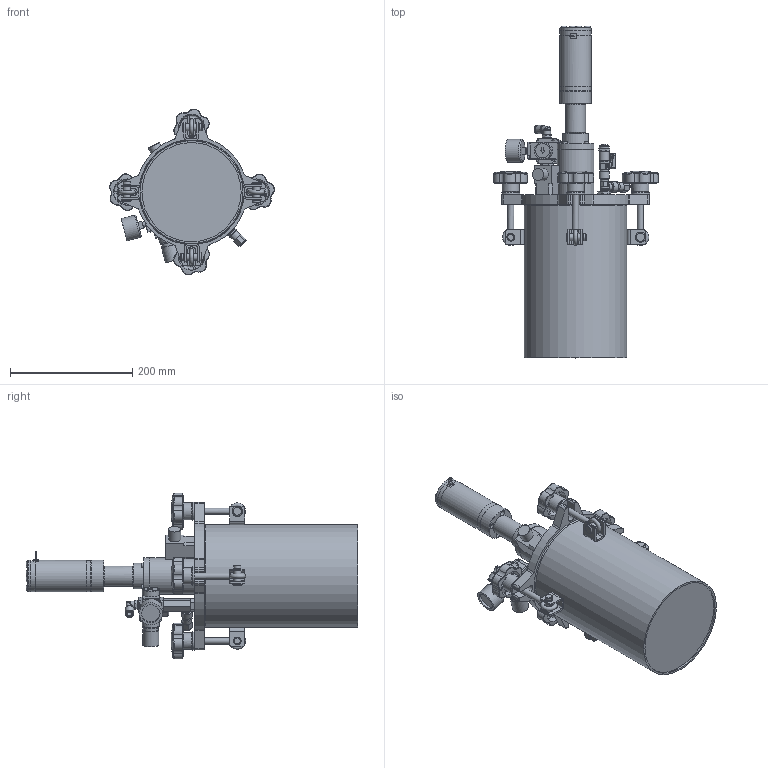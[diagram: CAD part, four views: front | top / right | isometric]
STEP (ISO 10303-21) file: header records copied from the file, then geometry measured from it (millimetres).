
FILE_DESCRIPTION (( 'STEP AP214' ), '1' );
FILE_NAME ('PT5LLS-STIR.STEP', '2024-10-11T14:34:44', ( '' ), ( '' ), 'SwSTEP 2.0', 'SolidWorks 2024', '' );
FILE_SCHEMA (( 'AUTOMOTIVE_DESIGN' ));
Length unit declared in the file: millimetre
Products named in the file (1): PT5LLS-STIR
Bounding box: 269.73 x 543.25 x 271.12 mm (x, y, z)
Volume: 2072873.1 mm3; surface area: 698149.6 mm2
Topology: 76 solids, 88 shells, 2279 faces, 5410 edges, 3439 vertices
Faces by surface type: plane 1155, cylinder 564, bspline 308, cone 213, torus 26, sphere 13
Full cylindrical faces by diameter (mm): 1.7 x2, 1.9 x1, 2 x3, 2.459 x3, 2.5 x4, 3 x5, 3.3 x8, 4 x12, 4.134 x10, 4.2 x4, 4.5 x1, 5 x16, 5.5 x7, 5.6 x4, 6 x4, 6.15 x1, 7 x6, 7.4 x1, 7.5 x1, 8 x5, 8.15 x1, 8.2 x1, 8.3 x1, 8.376 x5, 8.5 x4, 8.566 x2, 9 x8, 9.4 x1, 9.5 x4, 10 x8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
Entity records: 92762 total; most frequent: CARTESIAN_POINT 43817, ORIENTED_EDGE 9606, DIRECTION 9178, EDGE_CURVE 4803, AXIS2_PLACEMENT_3D 3367, VERTEX_POINT 3313, EDGE_LOOP 3014, FACE_OUTER_BOUND 2557
